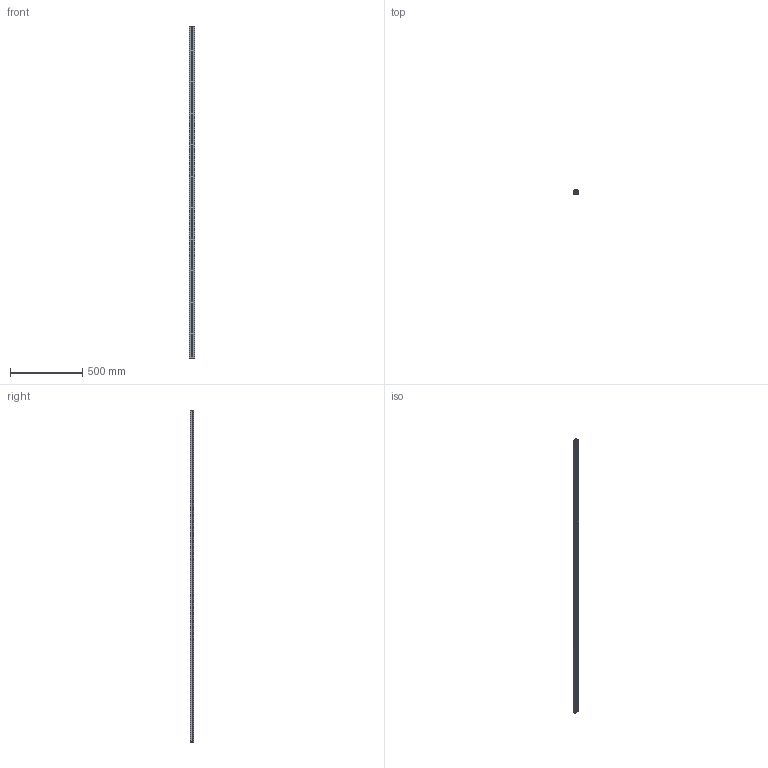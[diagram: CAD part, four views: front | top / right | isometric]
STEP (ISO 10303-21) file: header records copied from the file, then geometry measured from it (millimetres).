
FILE_DESCRIPTION (( 'STEP AP203' ), '1' );
FILE_NAME ('Linearführung_-_LFS-12-10 - L=2296.step', '2011-07-19T09:14:48', ( 'HI' ), ( '' ), 'SwSTEP 2.0', 'SolidWorks 2010', '' );
FILE_SCHEMA (( 'CONFIG_CONTROL_DESIGN' ));
Length unit declared in the file: millimetre
Products named in the file (1): Linearführung_-_LFS-12-10 - L=2296
Bounding box: 36 x 24.5 x 2296 mm (x, y, z)
Volume: 1478945.1 mm3; surface area: 567301.5 mm2
Topology: 1 solids, 1 shells, 1028 faces, 2722 edges, 1782 vertices
Faces by surface type: cylinder 485, plane 359, cone 184
Entity records: 42881 total; most frequent: CARTESIAN_POINT 17053, ORIENTED_EDGE 5444, DIRECTION 5210, EDGE_CURVE 2722, AXIS2_PLACEMENT_3D 2011, VERTEX_POINT 1782, EDGE_LOOP 1398, VECTOR 1188
